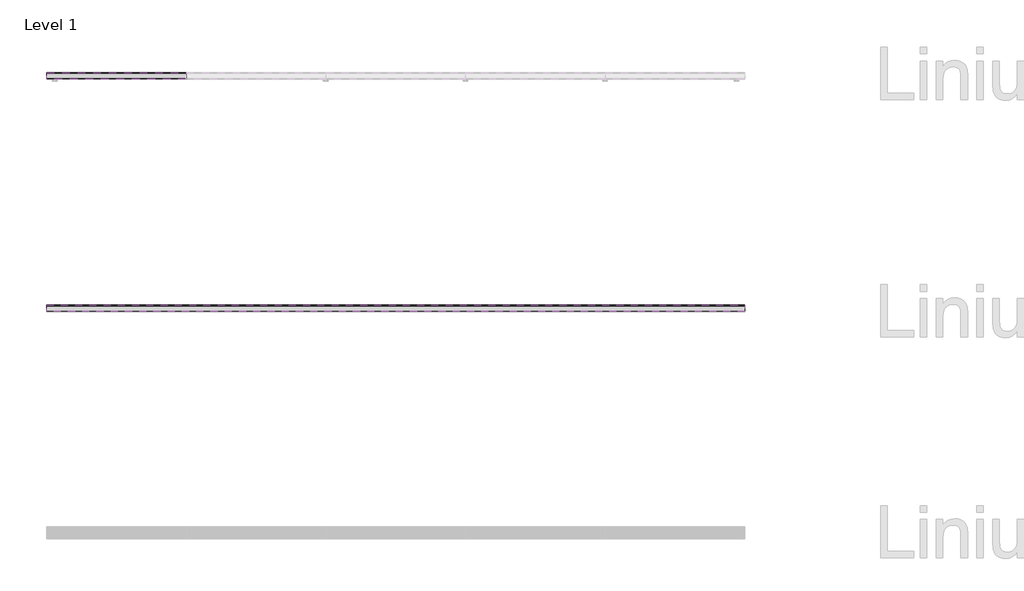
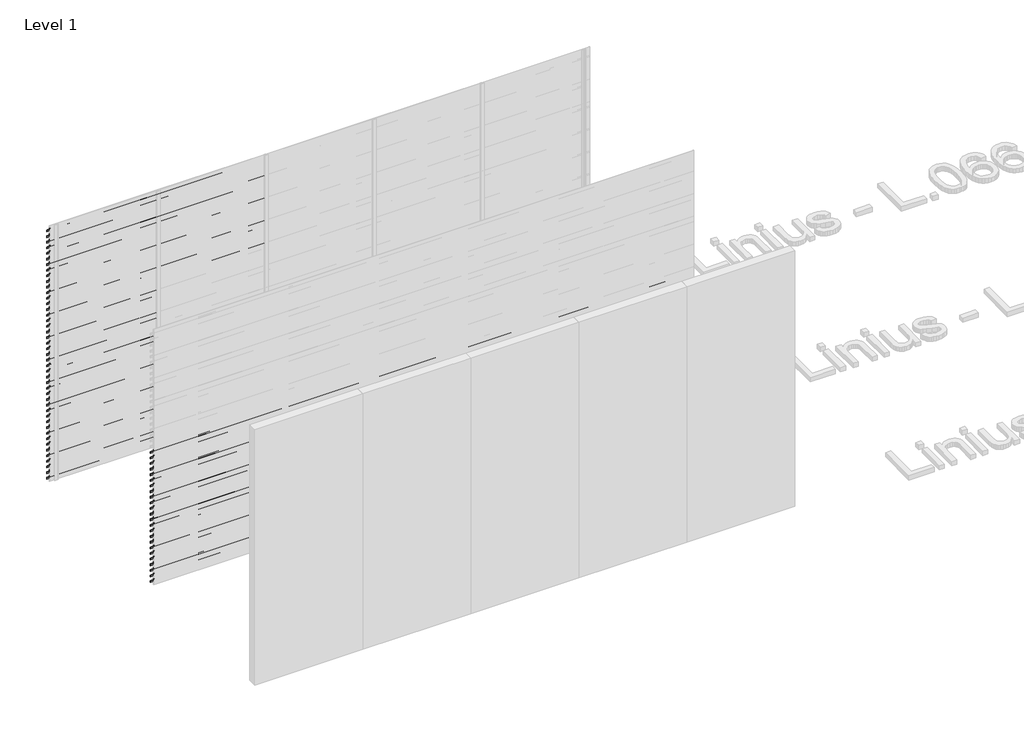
# One storey, part 73 of 540: 85 proxies.
"""IFC4 building model written with IfcOpenShell, lengths in millimetres."""

import ifcopenshell
import ifcopenshell.guid

model = None  # the IFC model being written
_history = None  # IfcOwnerHistory: only IFC2X3 demands one
_inside = {}  # id of a spatial element -> (the spatial element, [elements in it])
_under = {}  # id of a project, library or spatial element -> (it, [spatial elements below it])
_declared = {}  # id of a project -> (the project, [libraries it declares])
_typed = {}  # id of a type object -> (the type object, [elements of that type])
_made_of = {}  # id of a material, layer set ... -> (it, [elements and type objects made of it])


def new_model(schema):
    """Start an empty IFC model of exactly this schema.

    Asked for "IFC4X3", IfcOpenShell would pick the latest addendum, in which some entities
    have other attributes; the version numbers below select the first issue.
    IFC2X3 requires an IfcOwnerHistory on every rooted entity: one is made here for all.
    """
    global model, _history
    if schema == "IFC4X3":
        model = ifcopenshell.file(schema_version=(4, 3, 0, 0))
    else:
        model = ifcopenshell.file(schema=schema)
    _inside.clear()
    _under.clear()
    _declared.clear()
    _typed.clear()
    _made_of.clear()
    _history = None
    if model.schema == "IFC2X3":
        org = make("IfcOrganization", Name="unknown")
        user = make(
            "IfcPersonAndOrganization",
            ThePerson=make("IfcPerson", FamilyName="unknown"),
            TheOrganization=org,
        )
        app = make(
            "IfcApplication",
            ApplicationDeveloper=org,
            Version="unknown",
            ApplicationFullName="unknown",
            ApplicationIdentifier="unknown",
        )
        _history = make(
            "IfcOwnerHistory",
            OwningUser=user,
            OwningApplication=app,
            ChangeAction="ADDED",
            CreationDate=0,
        )
    return model


def make(cls, **values):
    """One entity of the class cls with the attributes given. An attribute that is None is left unset."""
    return model.create_entity(
        cls, **{name: value for name, value in values.items() if value is not None}
    )


def rooted(cls, **values):
    """An entity with a GlobalId (a new one), such as an element, a storey or a relation."""
    return make(cls, GlobalId=ifcopenshell.guid.new(), OwnerHistory=_history, **values)


def si_unit(unit_type, name, prefix=None):
    """IfcSIUnit, for example si_unit("LENGTHUNIT", "METRE", prefix="MILLI")."""
    return make("IfcSIUnit", UnitType=unit_type, Prefix=prefix, Name=name)


def assignment(units):
    """IfcUnitAssignment: the units of a project."""
    return None if units is None else make("IfcUnitAssignment", Units=units)


def point(xyz):
    """IfcCartesianPoint."""
    return None if xyz is None else make("IfcCartesianPoint", Coordinates=xyz)


def direction(xyz):
    """IfcDirection."""
    return None if xyz is None else make("IfcDirection", DirectionRatios=xyz)


def frame(location, z_axis=None, x_axis=None):
    """IfcAxis2Placement3D, a coordinate frame: its origin and axes. An axis left out is left unset."""
    return make(
        "IfcAxis2Placement3D",
        Location=point(location),
        Axis=direction(z_axis),
        RefDirection=direction(x_axis),
    )


def origin():
    """The frame at (0, 0, 0) with its axes left unset."""
    return frame((0.0, 0.0, 0.0))


def place(relative_to, where):
    """IfcLocalPlacement: puts the frame where relative to a parent placement (None: the world)."""
    return make(
        "IfcLocalPlacement", PlacementRelTo=relative_to, RelativePlacement=where
    )


def context(
    kind, dimensions, precision=None, world=None, true_north=None, identifier=None
):
    """IfcGeometricRepresentationContext, for example the 3D "Model" context."""
    return make(
        "IfcGeometricRepresentationContext",
        ContextIdentifier=identifier,
        ContextType=kind,
        CoordinateSpaceDimension=dimensions,
        Precision=precision,
        WorldCoordinateSystem=world,
        TrueNorth=true_north,
    )


def project(units=None, contexts=None):
    """IfcProject with its units and contexts."""
    return rooted(
        "IfcProject",
        Name="project",
        RepresentationContexts=contexts,
        UnitsInContext=assignment(units),
    )


def spatial(cls, under=None, at=None, **own):
    """A site, building, storey or space (cls), placed at a placement, below another one or the project."""
    s = rooted(cls, ObjectPlacement=at, **own)
    if under is not None:
        _under.setdefault(under.id(), (under, []))[1].append(s)
    return s


def polyline(points):
    """IfcPolyline through the points."""
    return make("IfcPolyline", Points=[point(p) for p in points])


def outline(outer, holes=None, kind="AREA"):
    """IfcArbitraryClosedProfileDef: a profile drawn as a closed curve; with holes, ...WithVoids."""
    if holes is None:
        return make("IfcArbitraryClosedProfileDef", ProfileType=kind, OuterCurve=outer)
    return make(
        "IfcArbitraryProfileDefWithVoids",
        ProfileType=kind,
        OuterCurve=outer,
        InnerCurves=holes,
    )


def extrude(swept, where, along, depth):
    """IfcExtrudedAreaSolid: the profile swept, set in the frame where, extruded along a direction by depth."""
    return make(
        "IfcExtrudedAreaSolid",
        SweptArea=swept,
        Position=where,
        ExtrudedDirection=direction(along),
        Depth=depth,
    )


def shape(context_of_items, identifier, shape_type, items):
    """IfcShapeRepresentation: the items that make up one representation, for example the "Body"."""
    return make(
        "IfcShapeRepresentation",
        ContextOfItems=context_of_items,
        RepresentationIdentifier=identifier,
        RepresentationType=shape_type,
        Items=items,
    )


def made_of(thing, what):
    """Note that an element or type object is made of a material, layer set ...; save() writes the relation."""
    if what is not None:
        _made_of.setdefault(what.id(), (what, []))[1].append(thing)
    return thing


def element(
    cls,
    number,
    at=None,
    inside=None,
    cuts=None,
    type_object=None,
    material=None,
    context=None,
    identifier="Body",
    shape_type=None,
    held_by="IfcProductDefinitionShape",
    body=None,
    shapes=None,
    **own,
):
    """One element of the class cls, such as IfcWall. Its Tag is "e" and its number.

    at: its placement. inside: the storey or other place that contains it. cuts: it is an
    opening in that element (IfcRelVoidsElement). A single representation is given by context,
    identifier, shape_type and body (its items); several are given by shapes. held_by: the class
    of the entity that holds the representations. save() writes the other relations.
    """
    e = rooted(cls, Tag="e%d" % number, ObjectPlacement=at, **own)
    if body is not None:
        shapes = [shape(context, identifier, shape_type, body)]
    if shapes is not None:
        e.Representation = make(held_by, Representations=shapes)
    if inside is not None:
        _inside.setdefault(inside.id(), (inside, []))[1].append(e)
    if cuts is not None:
        rooted(
            "IfcRelVoidsElement", RelatingBuildingElement=cuts, RelatedOpeningElement=e
        )
    if type_object is not None:
        _typed.setdefault(type_object.id(), (type_object, []))[1].append(e)
    return made_of(e, material)


def aggregate(whole, parts):
    """IfcRelAggregates: a whole, such as a stair, and the parts it consists of."""
    return rooted("IfcRelAggregates", RelatingObject=whole, RelatedObjects=parts)


def save(model, path):
    """Write the relations noted so far, then the file.

    IfcRelAggregates (storeys below a building ...), IfcRelContainedInSpatialStructure (elements
    in a storey), IfcRelDefinesByType, IfcRelAssociatesMaterial and IfcRelDeclares: one each for
    every whole, place, type object, material and project.
    """
    for whole, parts in _under.values():
        aggregate(whole, parts)
    for where, things in _inside.values():
        rooted(
            "IfcRelContainedInSpatialStructure",
            RelatedElements=things,
            RelatingStructure=where,
        )
    for kind, things in _typed.values():
        rooted("IfcRelDefinesByType", RelatedObjects=things, RelatingType=kind)
    for what, things in _made_of.values():
        rooted("IfcRelAssociatesMaterial", RelatedObjects=things, RelatingMaterial=what)
    for by, libraries in _declared.values():
        rooted("IfcRelDeclares", RelatingContext=by, RelatedDefinitions=libraries)
    model.write(path)


model = new_model("IFC4")

# Units and contexts
model_context = context("Model", 3, world=origin())
ifc_project = project(units=[si_unit("LENGTHUNIT", "METRE", prefix="MILLI")], contexts=[model_context])

# Site, building, storey
site = spatial("IfcSite", under=ifc_project)
building = spatial("IfcBuilding", under=site)
storey = spatial("IfcBuildingStorey", under=building, Name="Level 1", Elevation=0.0)

# Proxies
placement = place(None, origin())
element("IfcBuildingElementProxy", 1, Name="Wall Sweeps", at=placement, inside=storey, context=model_context, shape_type="SweptSolid", body=[
    extrude(outline(polyline([(44081.0540136, 2913.5), (44081.0540136, 2893.5), (44079.8040136, 2894.2216933), (44079.8040136, 2912.7872415), (44026.0540136, 2950.3158044), (44026.0540136, 2970.0), (44027.3040136, 2970.0), (44027.3040136, 2951.0285629), (44081.0540136, 2913.5)])), frame((466.6208097, 0.0, 0.0), z_axis=(1.0, 0.0, 0.0), x_axis=(0.0, 1.0, 0.0)), (0.0, 0.0, 1.0), 1200.0000002),
])
element("IfcBuildingElementProxy", 2, Name="Wall Sweeps", at=placement, inside=storey, context=model_context, shape_type="SweptSolid", body=[
    extrude(outline(polyline([(44081.0540136, 2847.5), (44081.0540136, 2827.5), (44079.8040136, 2828.2216933), (44079.8040136, 2846.7872415), (44026.0540136, 2884.3158044), (44026.0540136, 2904.0), (44027.3040136, 2904.0), (44027.3040136, 2885.0285629), (44081.0540136, 2847.5)])), frame((466.6208097, 0.0, 0.0), z_axis=(1.0, 0.0, 0.0), x_axis=(0.0, 1.0, 0.0)), (0.0, 0.0, 1.0), 1200.0000002),
])
element("IfcBuildingElementProxy", 3, Name="Wall Sweeps", at=placement, inside=storey, context=model_context, shape_type="SweptSolid", body=[
    extrude(outline(polyline([(44081.0540136, 2781.5), (44081.0540136, 2761.5), (44079.8040136, 2762.2216933), (44079.8040136, 2780.7872415), (44026.0540136, 2818.3158044), (44026.0540136, 2838.0), (44027.3040136, 2838.0), (44027.3040136, 2819.0285629), (44081.0540136, 2781.5)])), frame((466.6208097, 0.0, 0.0), z_axis=(1.0, 0.0, 0.0), x_axis=(0.0, 1.0, 0.0)), (0.0, 0.0, 1.0), 1200.0000002),
])
element("IfcBuildingElementProxy", 4, Name="Wall Sweeps", at=placement, inside=storey, context=model_context, shape_type="SweptSolid", body=[
    extrude(outline(polyline([(44081.0540136, 2715.5), (44081.0540136, 2695.5), (44079.8040136, 2696.2216933), (44079.8040136, 2714.7872415), (44026.0540136, 2752.3158044), (44026.0540136, 2772.0), (44027.3040136, 2772.0), (44027.3040136, 2753.0285629), (44081.0540136, 2715.5)])), frame((466.6208097, 0.0, 0.0), z_axis=(1.0, 0.0, 0.0), x_axis=(0.0, 1.0, 0.0)), (0.0, 0.0, 1.0), 1200.0000002),
])
element("IfcBuildingElementProxy", 5, Name="Wall Sweeps", at=placement, inside=storey, context=model_context, shape_type="SweptSolid", body=[
    extrude(outline(polyline([(44081.0540136, 2649.5), (44081.0540136, 2629.5), (44079.8040136, 2630.2216933), (44079.8040136, 2648.7872415), (44026.0540136, 2686.3158044), (44026.0540136, 2706.0), (44027.3040136, 2706.0), (44027.3040136, 2687.0285629), (44081.0540136, 2649.5)])), frame((466.6208097, 0.0, 0.0), z_axis=(1.0, 0.0, 0.0), x_axis=(0.0, 1.0, 0.0)), (0.0, 0.0, 1.0), 1200.0000002),
])
element("IfcBuildingElementProxy", 6, Name="Wall Sweeps", at=placement, inside=storey, context=model_context, shape_type="SweptSolid", body=[
    extrude(outline(polyline([(44081.0540136, 2583.5), (44081.0540136, 2563.5), (44079.8040136, 2564.2216933), (44079.8040136, 2582.7872415), (44026.0540136, 2620.3158044), (44026.0540136, 2640.0), (44027.3040136, 2640.0), (44027.3040136, 2621.0285629), (44081.0540136, 2583.5)])), frame((466.6208097, 0.0, 0.0), z_axis=(1.0, 0.0, 0.0), x_axis=(0.0, 1.0, 0.0)), (0.0, 0.0, 1.0), 1200.0000002),
])
element("IfcBuildingElementProxy", 7, Name="Wall Sweeps", at=placement, inside=storey, context=model_context, shape_type="SweptSolid", body=[
    extrude(outline(polyline([(44081.0540136, 2517.5), (44081.0540136, 2497.5), (44079.8040136, 2498.2216933), (44079.8040136, 2516.7872415), (44026.0540136, 2554.3158044), (44026.0540136, 2574.0), (44027.3040136, 2574.0), (44027.3040136, 2555.0285629), (44081.0540136, 2517.5)])), frame((466.6208097, 0.0, 0.0), z_axis=(1.0, 0.0, 0.0), x_axis=(0.0, 1.0, 0.0)), (0.0, 0.0, 1.0), 1200.0000002),
])
element("IfcBuildingElementProxy", 8, Name="Wall Sweeps", at=placement, inside=storey, context=model_context, shape_type="SweptSolid", body=[
    extrude(outline(polyline([(44081.0540136, 2451.5), (44081.0540136, 2431.5), (44079.8040136, 2432.2216933), (44079.8040136, 2450.7872415), (44026.0540136, 2488.3158044), (44026.0540136, 2508.0), (44027.3040136, 2508.0), (44027.3040136, 2489.0285629), (44081.0540136, 2451.5)])), frame((466.6208097, 0.0, 0.0), z_axis=(1.0, 0.0, 0.0), x_axis=(0.0, 1.0, 0.0)), (0.0, 0.0, 1.0), 1200.0000002),
])
element("IfcBuildingElementProxy", 9, Name="Wall Sweeps", at=placement, inside=storey, context=model_context, shape_type="SweptSolid", body=[
    extrude(outline(polyline([(44081.0540136, 2385.5), (44081.0540136, 2365.5), (44079.8040136, 2366.2216933), (44079.8040136, 2384.7872415), (44026.0540136, 2422.3158044), (44026.0540136, 2442.0), (44027.3040136, 2442.0), (44027.3040136, 2423.0285629), (44081.0540136, 2385.5)])), frame((466.6208097, 0.0, 0.0), z_axis=(1.0, 0.0, 0.0), x_axis=(0.0, 1.0, 0.0)), (0.0, 0.0, 1.0), 1200.0000002),
])
element("IfcBuildingElementProxy", 10, Name="Wall Sweeps", at=placement, inside=storey, context=model_context, shape_type="SweptSolid", body=[
    extrude(outline(polyline([(44081.0540136, 2319.5), (44081.0540136, 2299.5), (44079.8040136, 2300.2216933), (44079.8040136, 2318.7872415), (44026.0540136, 2356.3158044), (44026.0540136, 2376.0), (44027.3040136, 2376.0), (44027.3040136, 2357.0285629), (44081.0540136, 2319.5)])), frame((466.6208097, 0.0, 0.0), z_axis=(1.0, 0.0, 0.0), x_axis=(0.0, 1.0, 0.0)), (0.0, 0.0, 1.0), 1200.0000002),
])
element("IfcBuildingElementProxy", 11, Name="Wall Sweeps", at=placement, inside=storey, context=model_context, shape_type="SweptSolid", body=[
    extrude(outline(polyline([(44081.0540136, 2253.5), (44081.0540136, 2233.5), (44079.8040136, 2234.2216933), (44079.8040136, 2252.7872415), (44026.0540136, 2290.3158044), (44026.0540136, 2310.0), (44027.3040136, 2310.0), (44027.3040136, 2291.0285629), (44081.0540136, 2253.5)])), frame((466.6208097, 0.0, 0.0), z_axis=(1.0, 0.0, 0.0), x_axis=(0.0, 1.0, 0.0)), (0.0, 0.0, 1.0), 1200.0000002),
])
element("IfcBuildingElementProxy", 12, Name="Wall Sweeps", at=placement, inside=storey, context=model_context, shape_type="SweptSolid", body=[
    extrude(outline(polyline([(44081.0540136, 2187.5), (44081.0540136, 2167.5), (44079.8040136, 2168.2216933), (44079.8040136, 2186.7872415), (44026.0540136, 2224.3158044), (44026.0540136, 2244.0), (44027.3040136, 2244.0), (44027.3040136, 2225.0285629), (44081.0540136, 2187.5)])), frame((466.6208097, 0.0, 0.0), z_axis=(1.0, 0.0, 0.0), x_axis=(0.0, 1.0, 0.0)), (0.0, 0.0, 1.0), 1200.0000002),
])
element("IfcBuildingElementProxy", 13, Name="Wall Sweeps", at=placement, inside=storey, context=model_context, shape_type="SweptSolid", body=[
    extrude(outline(polyline([(44081.0540136, 2121.5), (44081.0540136, 2101.5), (44079.8040136, 2102.2216933), (44079.8040136, 2120.7872415), (44026.0540136, 2158.3158044), (44026.0540136, 2178.0), (44027.3040136, 2178.0), (44027.3040136, 2159.0285629), (44081.0540136, 2121.5)])), frame((466.6208097, 0.0, 0.0), z_axis=(1.0, 0.0, 0.0), x_axis=(0.0, 1.0, 0.0)), (0.0, 0.0, 1.0), 1200.0000002),
])
element("IfcBuildingElementProxy", 14, Name="Wall Sweeps", at=placement, inside=storey, context=model_context, shape_type="SweptSolid", body=[
    extrude(outline(polyline([(44081.0540136, 2055.5), (44081.0540136, 2035.5), (44079.8040136, 2036.2216933), (44079.8040136, 2054.7872415), (44026.0540136, 2092.3158044), (44026.0540136, 2112.0), (44027.3040136, 2112.0), (44027.3040136, 2093.0285629), (44081.0540136, 2055.5)])), frame((466.6208097, 0.0, 0.0), z_axis=(1.0, 0.0, 0.0), x_axis=(0.0, 1.0, 0.0)), (0.0, 0.0, 1.0), 1200.0000002),
])
element("IfcBuildingElementProxy", 15, Name="Wall Sweeps", at=placement, inside=storey, context=model_context, shape_type="SweptSolid", body=[
    extrude(outline(polyline([(44081.0540136, 1989.5), (44081.0540136, 1969.5), (44079.8040136, 1970.2216933), (44079.8040136, 1988.7872415), (44026.0540136, 2026.3158044), (44026.0540136, 2046.0), (44027.3040136, 2046.0), (44027.3040136, 2027.0285629), (44081.0540136, 1989.5)])), frame((466.6208097, 0.0, 0.0), z_axis=(1.0, 0.0, 0.0), x_axis=(0.0, 1.0, 0.0)), (0.0, 0.0, 1.0), 1200.0000002),
])
element("IfcBuildingElementProxy", 16, Name="Wall Sweeps", at=placement, inside=storey, context=model_context, shape_type="SweptSolid", body=[
    extrude(outline(polyline([(44081.0540136, 1923.5), (44081.0540136, 1903.5), (44079.8040136, 1904.2216933), (44079.8040136, 1922.7872415), (44026.0540136, 1960.3158044), (44026.0540136, 1980.0), (44027.3040136, 1980.0), (44027.3040136, 1961.0285629), (44081.0540136, 1923.5)])), frame((466.6208097, 0.0, 0.0), z_axis=(1.0, 0.0, 0.0), x_axis=(0.0, 1.0, 0.0)), (0.0, 0.0, 1.0), 1200.0000002),
])
element("IfcBuildingElementProxy", 17, Name="Wall Sweeps", at=placement, inside=storey, context=model_context, shape_type="SweptSolid", body=[
    extrude(outline(polyline([(44081.0540136, 1857.5), (44081.0540136, 1837.5), (44079.8040136, 1838.2216933), (44079.8040136, 1856.7872415), (44026.0540136, 1894.3158044), (44026.0540136, 1914.0), (44027.3040136, 1914.0), (44027.3040136, 1895.0285629), (44081.0540136, 1857.5)])), frame((466.6208097, 0.0, 0.0), z_axis=(1.0, 0.0, 0.0), x_axis=(0.0, 1.0, 0.0)), (0.0, 0.0, 1.0), 1200.0000002),
])
element("IfcBuildingElementProxy", 18, Name="Wall Sweeps", at=placement, inside=storey, context=model_context, shape_type="SweptSolid", body=[
    extrude(outline(polyline([(44081.0540136, 1791.5), (44081.0540136, 1771.5), (44079.8040136, 1772.2216933), (44079.8040136, 1790.7872415), (44026.0540136, 1828.3158044), (44026.0540136, 1848.0), (44027.3040136, 1848.0), (44027.3040136, 1829.0285629), (44081.0540136, 1791.5)])), frame((466.6208097, 0.0, 0.0), z_axis=(1.0, 0.0, 0.0), x_axis=(0.0, 1.0, 0.0)), (0.0, 0.0, 1.0), 1200.0000002),
])
element("IfcBuildingElementProxy", 19, Name="Wall Sweeps", at=placement, inside=storey, context=model_context, shape_type="SweptSolid", body=[
    extrude(outline(polyline([(44081.0540136, 1725.5), (44081.0540136, 1705.5), (44079.8040136, 1706.2216933), (44079.8040136, 1724.7872415), (44026.0540136, 1762.3158044), (44026.0540136, 1782.0), (44027.3040136, 1782.0), (44027.3040136, 1763.0285629), (44081.0540136, 1725.5)])), frame((466.6208097, 0.0, 0.0), z_axis=(1.0, 0.0, 0.0), x_axis=(0.0, 1.0, 0.0)), (0.0, 0.0, 1.0), 1200.0000002),
])
element("IfcBuildingElementProxy", 20, Name="Wall Sweeps", at=placement, inside=storey, context=model_context, shape_type="SweptSolid", body=[
    extrude(outline(polyline([(44081.0540136, 1659.5), (44081.0540136, 1639.5), (44079.8040136, 1640.2216933), (44079.8040136, 1658.7872415), (44026.0540136, 1696.3158044), (44026.0540136, 1716.0), (44027.3040136, 1716.0), (44027.3040136, 1697.0285629), (44081.0540136, 1659.5)])), frame((466.6208097, 0.0, 0.0), z_axis=(1.0, 0.0, 0.0), x_axis=(0.0, 1.0, 0.0)), (0.0, 0.0, 1.0), 1200.0000002),
])
element("IfcBuildingElementProxy", 21, Name="Wall Sweeps", at=placement, inside=storey, context=model_context, shape_type="SweptSolid", body=[
    extrude(outline(polyline([(44081.0540136, 1593.5), (44081.0540136, 1573.5), (44079.8040136, 1574.2216933), (44079.8040136, 1592.7872415), (44026.0540136, 1630.3158044), (44026.0540136, 1650.0), (44027.3040136, 1650.0), (44027.3040136, 1631.0285629), (44081.0540136, 1593.5)])), frame((466.6208097, 0.0, 0.0), z_axis=(1.0, 0.0, 0.0), x_axis=(0.0, 1.0, 0.0)), (0.0, 0.0, 1.0), 1200.0000002),
])
element("IfcBuildingElementProxy", 22, Name="Wall Sweeps", at=placement, inside=storey, context=model_context, shape_type="SweptSolid", body=[
    extrude(outline(polyline([(44081.0540136, 1527.5), (44081.0540136, 1507.5), (44079.8040136, 1508.2216933), (44079.8040136, 1526.7872415), (44026.0540136, 1564.3158044), (44026.0540136, 1584.0), (44027.3040136, 1584.0), (44027.3040136, 1565.0285629), (44081.0540136, 1527.5)])), frame((466.6208097, 0.0, 0.0), z_axis=(1.0, 0.0, 0.0), x_axis=(0.0, 1.0, 0.0)), (0.0, 0.0, 1.0), 1200.0000002),
])
element("IfcBuildingElementProxy", 23, Name="Wall Sweeps", at=placement, inside=storey, context=model_context, shape_type="SweptSolid", body=[
    extrude(outline(polyline([(44081.0540136, 1461.5), (44081.0540136, 1441.5), (44079.8040136, 1442.2216933), (44079.8040136, 1460.7872415), (44026.0540136, 1498.3158044), (44026.0540136, 1518.0), (44027.3040136, 1518.0), (44027.3040136, 1499.0285629), (44081.0540136, 1461.5)])), frame((466.6208097, 0.0, 0.0), z_axis=(1.0, 0.0, 0.0), x_axis=(0.0, 1.0, 0.0)), (0.0, 0.0, 1.0), 1200.0000002),
])
element("IfcBuildingElementProxy", 24, Name="Wall Sweeps", at=placement, inside=storey, context=model_context, shape_type="SweptSolid", body=[
    extrude(outline(polyline([(44081.0540136, 1395.5), (44081.0540136, 1375.5), (44079.8040136, 1376.2216933), (44079.8040136, 1394.7872415), (44026.0540136, 1432.3158044), (44026.0540136, 1452.0), (44027.3040136, 1452.0), (44027.3040136, 1433.0285629), (44081.0540136, 1395.5)])), frame((466.6208097, 0.0, 0.0), z_axis=(1.0, 0.0, 0.0), x_axis=(0.0, 1.0, 0.0)), (0.0, 0.0, 1.0), 1200.0000002),
])
element("IfcBuildingElementProxy", 25, Name="Wall Sweeps", at=placement, inside=storey, context=model_context, shape_type="SweptSolid", body=[
    extrude(outline(polyline([(44081.0540136, 1329.5), (44081.0540136, 1309.5), (44079.8040136, 1310.2216933), (44079.8040136, 1328.7872415), (44026.0540136, 1366.3158044), (44026.0540136, 1386.0), (44027.3040136, 1386.0), (44027.3040136, 1367.0285629), (44081.0540136, 1329.5)])), frame((466.6208097, 0.0, 0.0), z_axis=(1.0, 0.0, 0.0), x_axis=(0.0, 1.0, 0.0)), (0.0, 0.0, 1.0), 1200.0000002),
])
element("IfcBuildingElementProxy", 26, Name="Wall Sweeps", at=placement, inside=storey, context=model_context, shape_type="SweptSolid", body=[
    extrude(outline(polyline([(44081.0540136, 1263.5), (44081.0540136, 1243.5), (44079.8040136, 1244.2216933), (44079.8040136, 1262.7872415), (44026.0540136, 1300.3158044), (44026.0540136, 1320.0), (44027.3040136, 1320.0), (44027.3040136, 1301.0285629), (44081.0540136, 1263.5)])), frame((466.6208097, 0.0, 0.0), z_axis=(1.0, 0.0, 0.0), x_axis=(0.0, 1.0, 0.0)), (0.0, 0.0, 1.0), 1200.0000002),
])
element("IfcBuildingElementProxy", 27, Name="Wall Sweeps", at=placement, inside=storey, context=model_context, shape_type="SweptSolid", body=[
    extrude(outline(polyline([(44081.0540136, 1197.5), (44081.0540136, 1177.5), (44079.8040136, 1178.2216933), (44079.8040136, 1196.7872415), (44026.0540136, 1234.3158044), (44026.0540136, 1254.0), (44027.3040136, 1254.0), (44027.3040136, 1235.0285629), (44081.0540136, 1197.5)])), frame((466.6208097, 0.0, 0.0), z_axis=(1.0, 0.0, 0.0), x_axis=(0.0, 1.0, 0.0)), (0.0, 0.0, 1.0), 1200.0000002),
])
element("IfcBuildingElementProxy", 28, Name="Wall Sweeps", at=placement, inside=storey, context=model_context, shape_type="SweptSolid", body=[
    extrude(outline(polyline([(44081.0540136, 1131.5), (44081.0540136, 1111.5), (44079.8040136, 1112.2216933), (44079.8040136, 1130.7872415), (44026.0540136, 1168.3158044), (44026.0540136, 1188.0), (44027.3040136, 1188.0), (44027.3040136, 1169.0285629), (44081.0540136, 1131.5)])), frame((466.6208097, 0.0, 0.0), z_axis=(1.0, 0.0, 0.0), x_axis=(0.0, 1.0, 0.0)), (0.0, 0.0, 1.0), 1200.0000002),
])
element("IfcBuildingElementProxy", 29, Name="Wall Sweeps", at=placement, inside=storey, context=model_context, shape_type="SweptSolid", body=[
    extrude(outline(polyline([(44081.0540136, 1065.5), (44081.0540136, 1045.5), (44079.8040136, 1046.2216933), (44079.8040136, 1064.7872415), (44026.0540136, 1102.3158044), (44026.0540136, 1122.0), (44027.3040136, 1122.0), (44027.3040136, 1103.0285629), (44081.0540136, 1065.5)])), frame((466.6208097, 0.0, 0.0), z_axis=(1.0, 0.0, 0.0), x_axis=(0.0, 1.0, 0.0)), (0.0, 0.0, 1.0), 1200.0000002),
])
element("IfcBuildingElementProxy", 30, Name="Wall Sweeps", at=placement, inside=storey, context=model_context, shape_type="SweptSolid", body=[
    extrude(outline(polyline([(44081.0540136, 999.5), (44081.0540136, 979.5), (44079.8040136, 980.2216933), (44079.8040136, 998.7872415), (44026.0540136, 1036.3158044), (44026.0540136, 1056.0), (44027.3040136, 1056.0), (44027.3040136, 1037.0285629), (44081.0540136, 999.5)])), frame((466.6208097, 0.0, 0.0), z_axis=(1.0, 0.0, 0.0), x_axis=(0.0, 1.0, 0.0)), (0.0, 0.0, 1.0), 1200.0000002),
])
element("IfcBuildingElementProxy", 31, Name="Wall Sweeps", at=placement, inside=storey, context=model_context, shape_type="SweptSolid", body=[
    extrude(outline(polyline([(44081.0540136, 933.5), (44081.0540136, 913.5), (44079.8040136, 914.2216933), (44079.8040136, 932.7872415), (44026.0540136, 970.3158044), (44026.0540136, 990.0), (44027.3040136, 990.0), (44027.3040136, 971.0285629), (44081.0540136, 933.5)])), frame((466.6208097, 0.0, 0.0), z_axis=(1.0, 0.0, 0.0), x_axis=(0.0, 1.0, 0.0)), (0.0, 0.0, 1.0), 1200.0000002),
])
element("IfcBuildingElementProxy", 32, Name="Wall Sweeps", at=placement, inside=storey, context=model_context, shape_type="SweptSolid", body=[
    extrude(outline(polyline([(44081.0540136, 867.5), (44081.0540136, 847.5), (44079.8040136, 848.2216933), (44079.8040136, 866.7872415), (44026.0540136, 904.3158044), (44026.0540136, 924.0), (44027.3040136, 924.0), (44027.3040136, 905.0285629), (44081.0540136, 867.5)])), frame((466.6208097, 0.0, 0.0), z_axis=(1.0, 0.0, 0.0), x_axis=(0.0, 1.0, 0.0)), (0.0, 0.0, 1.0), 1200.0000002),
])
element("IfcBuildingElementProxy", 33, Name="Wall Sweeps", at=placement, inside=storey, context=model_context, shape_type="SweptSolid", body=[
    extrude(outline(polyline([(44081.0540136, 801.5), (44081.0540136, 781.5), (44079.8040136, 782.2216933), (44079.8040136, 800.7872415), (44026.0540136, 838.3158044), (44026.0540136, 858.0), (44027.3040136, 858.0), (44027.3040136, 839.0285629), (44081.0540136, 801.5)])), frame((466.6208097, 0.0, 0.0), z_axis=(1.0, 0.0, 0.0), x_axis=(0.0, 1.0, 0.0)), (0.0, 0.0, 1.0), 1200.0000002),
])
element("IfcBuildingElementProxy", 34, Name="Wall Sweeps", at=placement, inside=storey, context=model_context, shape_type="SweptSolid", body=[
    extrude(outline(polyline([(44081.0540136, 735.5), (44081.0540136, 715.5), (44079.8040136, 716.2216933), (44079.8040136, 734.7872415), (44026.0540136, 772.3158044), (44026.0540136, 792.0), (44027.3040136, 792.0), (44027.3040136, 773.0285629), (44081.0540136, 735.5)])), frame((466.6208097, 0.0, 0.0), z_axis=(1.0, 0.0, 0.0), x_axis=(0.0, 1.0, 0.0)), (0.0, 0.0, 1.0), 1200.0000002),
])
element("IfcBuildingElementProxy", 35, Name="Wall Sweeps", at=placement, inside=storey, context=model_context, shape_type="SweptSolid", body=[
    extrude(outline(polyline([(44081.0540136, 669.5), (44081.0540136, 649.5), (44079.8040136, 650.2216933), (44079.8040136, 668.7872415), (44026.0540136, 706.3158044), (44026.0540136, 726.0), (44027.3040136, 726.0), (44027.3040136, 707.0285629), (44081.0540136, 669.5)])), frame((466.6208097, 0.0, 0.0), z_axis=(1.0, 0.0, 0.0), x_axis=(0.0, 1.0, 0.0)), (0.0, 0.0, 1.0), 1200.0000002),
])
element("IfcBuildingElementProxy", 36, Name="Wall Sweeps", at=placement, inside=storey, context=model_context, shape_type="SweptSolid", body=[
    extrude(outline(polyline([(44081.0540136, 603.5), (44081.0540136, 583.5), (44079.8040136, 584.2216933), (44079.8040136, 602.7872415), (44026.0540136, 640.3158044), (44026.0540136, 660.0), (44027.3040136, 660.0), (44027.3040136, 641.0285629), (44081.0540136, 603.5)])), frame((466.6208097, 0.0, 0.0), z_axis=(1.0, 0.0, 0.0), x_axis=(0.0, 1.0, 0.0)), (0.0, 0.0, 1.0), 1200.0000002),
])
element("IfcBuildingElementProxy", 37, Name="Wall Sweeps", at=placement, inside=storey, context=model_context, shape_type="SweptSolid", body=[
    extrude(outline(polyline([(44081.0540136, 537.5), (44081.0540136, 517.5), (44079.8040136, 518.2216933), (44079.8040136, 536.7872415), (44026.0540136, 574.3158044), (44026.0540136, 594.0), (44027.3040136, 594.0), (44027.3040136, 575.0285629), (44081.0540136, 537.5)])), frame((466.6208097, 0.0, 0.0), z_axis=(1.0, 0.0, 0.0), x_axis=(0.0, 1.0, 0.0)), (0.0, 0.0, 1.0), 1200.0000002),
])
element("IfcBuildingElementProxy", 38, Name="Wall Sweeps", at=placement, inside=storey, context=model_context, shape_type="SweptSolid", body=[
    extrude(outline(polyline([(44081.0540136, 471.5), (44081.0540136, 451.5), (44079.8040136, 452.2216933), (44079.8040136, 470.7872415), (44026.0540136, 508.3158044), (44026.0540136, 528.0), (44027.3040136, 528.0), (44027.3040136, 509.0285629), (44081.0540136, 471.5)])), frame((466.6208097, 0.0, 0.0), z_axis=(1.0, 0.0, 0.0), x_axis=(0.0, 1.0, 0.0)), (0.0, 0.0, 1.0), 1200.0000002),
])
element("IfcBuildingElementProxy", 39, Name="Wall Sweeps", at=placement, inside=storey, context=model_context, shape_type="SweptSolid", body=[
    extrude(outline(polyline([(44081.0540136, 405.5), (44081.0540136, 385.5), (44079.8040136, 386.2216933), (44079.8040136, 404.7872415), (44026.0540136, 442.3158044), (44026.0540136, 462.0), (44027.3040136, 462.0), (44027.3040136, 443.0285629), (44081.0540136, 405.5)])), frame((466.6208097, 0.0, 0.0), z_axis=(1.0, 0.0, 0.0), x_axis=(0.0, 1.0, 0.0)), (0.0, 0.0, 1.0), 1200.0000002),
])
element("IfcBuildingElementProxy", 40, Name="Wall Sweeps", at=placement, inside=storey, context=model_context, shape_type="SweptSolid", body=[
    extrude(outline(polyline([(44081.0540136, 339.5), (44081.0540136, 319.5), (44079.8040136, 320.2216933), (44079.8040136, 338.7872415), (44026.0540136, 376.3158044), (44026.0540136, 396.0), (44027.3040136, 396.0), (44027.3040136, 377.0285629), (44081.0540136, 339.5)])), frame((466.6208097, 0.0, 0.0), z_axis=(1.0, 0.0, 0.0), x_axis=(0.0, 1.0, 0.0)), (0.0, 0.0, 1.0), 1200.0000002),
])
element("IfcBuildingElementProxy", 41, Name="Wall Sweeps", at=placement, inside=storey, context=model_context, shape_type="SweptSolid", body=[
    extrude(outline(polyline([(44081.0540136, 273.5), (44081.0540136, 253.5), (44079.8040136, 254.2216933), (44079.8040136, 272.7872415), (44026.0540136, 310.3158044), (44026.0540136, 330.0), (44027.3040136, 330.0), (44027.3040136, 311.0285629), (44081.0540136, 273.5)])), frame((466.6208097, 0.0, 0.0), z_axis=(1.0, 0.0, 0.0), x_axis=(0.0, 1.0, 0.0)), (0.0, 0.0, 1.0), 1200.0000002),
])
element("IfcBuildingElementProxy", 42, Name="Wall Sweeps", at=placement, inside=storey, context=model_context, shape_type="SweptSolid", body=[
    extrude(outline(polyline([(44081.0540136, 207.5), (44081.0540136, 187.5), (44079.8040136, 188.2216933), (44079.8040136, 206.7872415), (44026.0540136, 244.3158044), (44026.0540136, 264.0), (44027.3040136, 264.0), (44027.3040136, 245.0285629), (44081.0540136, 207.5)])), frame((466.6208097, 0.0, 0.0), z_axis=(1.0, 0.0, 0.0), x_axis=(0.0, 1.0, 0.0)), (0.0, 0.0, 1.0), 1200.0000002),
])
element("IfcBuildingElementProxy", 43, Name="Wall Sweeps", at=placement, inside=storey, context=model_context, shape_type="SweptSolid", body=[
    extrude(outline(polyline([(44081.0540136, 141.5), (44081.0540136, 121.5), (44079.8040136, 122.2216933), (44079.8040136, 140.7872415), (44026.0540136, 178.3158044), (44026.0540136, 198.0), (44027.3040136, 198.0), (44027.3040136, 179.0285629), (44081.0540136, 141.5)])), frame((466.6208097, 0.0, 0.0), z_axis=(1.0, 0.0, 0.0), x_axis=(0.0, 1.0, 0.0)), (0.0, 0.0, 1.0), 1200.0000002),
])
element("IfcBuildingElementProxy", 44, Name="Wall Sweeps", at=placement, inside=storey, context=model_context, shape_type="SweptSolid", body=[
    extrude(outline(polyline([(44081.0540136, 75.5), (44081.0540136, 55.5), (44079.8040136, 56.2216933), (44079.8040136, 74.7872415), (44026.0540136, 112.3158044), (44026.0540136, 132.0), (44027.3040136, 132.0), (44027.3040136, 113.0285629), (44081.0540136, 75.5)])), frame((466.6208097, 0.0, 0.0), z_axis=(1.0, 0.0, 0.0), x_axis=(0.0, 1.0, 0.0)), (0.0, 0.0, 1.0), 1200.0000002),
])
element("IfcBuildingElementProxy", 45, Name="Wall Sweeps", at=placement, inside=storey, context=model_context, shape_type="SweptSolid", body=[
    extrude(outline(polyline([(44081.0540136, 9.5), (44081.0540136, -10.5), (44079.8040136, -9.7783067), (44079.8040136, 8.7872415), (44026.0540136, 46.3158044), (44026.0540136, 66.0), (44027.3040136, 66.0), (44027.3040136, 47.0285629), (44081.0540136, 9.5)])), frame((466.6208097, 0.0, 0.0), z_axis=(1.0, 0.0, 0.0), x_axis=(0.0, 1.0, 0.0)), (0.0, 0.0, 1.0), 1200.0000002),
])
element("IfcBuildingElementProxy", 46, Name="Wall Sweeps", at=placement, inside=storey, context=model_context, shape_type="SweptSolid", body=[
    extrude(outline(polyline([(44081.0540136, 2913.5), (44081.0540136, 2893.5), (44079.8040136, 2894.2216933), (44079.8040136, 2912.7872415), (44026.0540136, 2950.3158044), (44026.0540136, 2970.0), (44027.3040136, 2970.0), (44027.3040136, 2951.0285629), (44081.0540136, 2913.5)])), frame((1666.6208099, 0.0, 0.0), z_axis=(1.0, 0.0, 0.0), x_axis=(0.0, 1.0, 0.0)), (0.0, 0.0, 1.0), 1199.9999999),
])
element("IfcBuildingElementProxy", 47, Name="Wall Sweeps", at=placement, inside=storey, context=model_context, shape_type="SweptSolid", body=[
    extrude(outline(polyline([(44081.0540136, 2847.5), (44081.0540136, 2827.5), (44079.8040136, 2828.2216933), (44079.8040136, 2846.7872415), (44026.0540136, 2884.3158044), (44026.0540136, 2904.0), (44027.3040136, 2904.0), (44027.3040136, 2885.0285629), (44081.0540136, 2847.5)])), frame((1666.6208099, 0.0, 0.0), z_axis=(1.0, 0.0, 0.0), x_axis=(0.0, 1.0, 0.0)), (0.0, 0.0, 1.0), 1199.9999999),
])
element("IfcBuildingElementProxy", 48, Name="Wall Sweeps", at=placement, inside=storey, context=model_context, shape_type="SweptSolid", body=[
    extrude(outline(polyline([(44081.0540136, 2781.5), (44081.0540136, 2761.5), (44079.8040136, 2762.2216933), (44079.8040136, 2780.7872415), (44026.0540136, 2818.3158044), (44026.0540136, 2838.0), (44027.3040136, 2838.0), (44027.3040136, 2819.0285629), (44081.0540136, 2781.5)])), frame((1666.6208099, 0.0, 0.0), z_axis=(1.0, 0.0, 0.0), x_axis=(0.0, 1.0, 0.0)), (0.0, 0.0, 1.0), 1199.9999999),
])
element("IfcBuildingElementProxy", 49, Name="Wall Sweeps", at=placement, inside=storey, context=model_context, shape_type="SweptSolid", body=[
    extrude(outline(polyline([(44081.0540136, 2715.5), (44081.0540136, 2695.5), (44079.8040136, 2696.2216933), (44079.8040136, 2714.7872415), (44026.0540136, 2752.3158044), (44026.0540136, 2772.0), (44027.3040136, 2772.0), (44027.3040136, 2753.0285629), (44081.0540136, 2715.5)])), frame((1666.6208099, 0.0, 0.0), z_axis=(1.0, 0.0, 0.0), x_axis=(0.0, 1.0, 0.0)), (0.0, 0.0, 1.0), 1199.9999999),
])
element("IfcBuildingElementProxy", 50, Name="Wall Sweeps", at=placement, inside=storey, context=model_context, shape_type="SweptSolid", body=[
    extrude(outline(polyline([(44081.0540136, 2649.5), (44081.0540136, 2629.5), (44079.8040136, 2630.2216933), (44079.8040136, 2648.7872415), (44026.0540136, 2686.3158044), (44026.0540136, 2706.0), (44027.3040136, 2706.0), (44027.3040136, 2687.0285629), (44081.0540136, 2649.5)])), frame((1666.6208099, 0.0, 0.0), z_axis=(1.0, 0.0, 0.0), x_axis=(0.0, 1.0, 0.0)), (0.0, 0.0, 1.0), 1199.9999999),
])
element("IfcBuildingElementProxy", 51, Name="Wall Sweeps", at=placement, inside=storey, context=model_context, shape_type="SweptSolid", body=[
    extrude(outline(polyline([(44081.0540136, 2583.5), (44081.0540136, 2563.5), (44079.8040136, 2564.2216933), (44079.8040136, 2582.7872415), (44026.0540136, 2620.3158044), (44026.0540136, 2640.0), (44027.3040136, 2640.0), (44027.3040136, 2621.0285629), (44081.0540136, 2583.5)])), frame((1666.6208099, 0.0, 0.0), z_axis=(1.0, 0.0, 0.0), x_axis=(0.0, 1.0, 0.0)), (0.0, 0.0, 1.0), 1199.9999999),
])
element("IfcBuildingElementProxy", 52, Name="Wall Sweeps", at=placement, inside=storey, context=model_context, shape_type="SweptSolid", body=[
    extrude(outline(polyline([(44081.0540136, 2517.5), (44081.0540136, 2497.5), (44079.8040136, 2498.2216933), (44079.8040136, 2516.7872415), (44026.0540136, 2554.3158044), (44026.0540136, 2574.0), (44027.3040136, 2574.0), (44027.3040136, 2555.0285629), (44081.0540136, 2517.5)])), frame((1666.6208099, 0.0, 0.0), z_axis=(1.0, 0.0, 0.0), x_axis=(0.0, 1.0, 0.0)), (0.0, 0.0, 1.0), 1199.9999999),
])
element("IfcBuildingElementProxy", 53, Name="Wall Sweeps", at=placement, inside=storey, context=model_context, shape_type="SweptSolid", body=[
    extrude(outline(polyline([(44081.0540136, 2451.5), (44081.0540136, 2431.5), (44079.8040136, 2432.2216933), (44079.8040136, 2450.7872415), (44026.0540136, 2488.3158044), (44026.0540136, 2508.0), (44027.3040136, 2508.0), (44027.3040136, 2489.0285629), (44081.0540136, 2451.5)])), frame((1666.6208099, 0.0, 0.0), z_axis=(1.0, 0.0, 0.0), x_axis=(0.0, 1.0, 0.0)), (0.0, 0.0, 1.0), 1199.9999999),
])
element("IfcBuildingElementProxy", 54, Name="Wall Sweeps", at=placement, inside=storey, context=model_context, shape_type="SweptSolid", body=[
    extrude(outline(polyline([(44081.0540136, 2385.5), (44081.0540136, 2365.5), (44079.8040136, 2366.2216933), (44079.8040136, 2384.7872415), (44026.0540136, 2422.3158044), (44026.0540136, 2442.0), (44027.3040136, 2442.0), (44027.3040136, 2423.0285629), (44081.0540136, 2385.5)])), frame((1666.6208099, 0.0, 0.0), z_axis=(1.0, 0.0, 0.0), x_axis=(0.0, 1.0, 0.0)), (0.0, 0.0, 1.0), 1199.9999999),
])
element("IfcBuildingElementProxy", 55, Name="Wall Sweeps", at=placement, inside=storey, context=model_context, shape_type="SweptSolid", body=[
    extrude(outline(polyline([(44081.0540136, 2319.5), (44081.0540136, 2299.5), (44079.8040136, 2300.2216933), (44079.8040136, 2318.7872415), (44026.0540136, 2356.3158044), (44026.0540136, 2376.0), (44027.3040136, 2376.0), (44027.3040136, 2357.0285629), (44081.0540136, 2319.5)])), frame((1666.6208099, 0.0, 0.0), z_axis=(1.0, 0.0, 0.0), x_axis=(0.0, 1.0, 0.0)), (0.0, 0.0, 1.0), 1199.9999999),
])
element("IfcBuildingElementProxy", 56, Name="Wall Sweeps", at=placement, inside=storey, context=model_context, shape_type="SweptSolid", body=[
    extrude(outline(polyline([(44081.0540136, 2253.5), (44081.0540136, 2233.5), (44079.8040136, 2234.2216933), (44079.8040136, 2252.7872415), (44026.0540136, 2290.3158044), (44026.0540136, 2310.0), (44027.3040136, 2310.0), (44027.3040136, 2291.0285629), (44081.0540136, 2253.5)])), frame((1666.6208099, 0.0, 0.0), z_axis=(1.0, 0.0, 0.0), x_axis=(0.0, 1.0, 0.0)), (0.0, 0.0, 1.0), 1199.9999999),
])
element("IfcBuildingElementProxy", 57, Name="Wall Sweeps", at=placement, inside=storey, context=model_context, shape_type="SweptSolid", body=[
    extrude(outline(polyline([(44081.0540136, 2187.5), (44081.0540136, 2167.5), (44079.8040136, 2168.2216933), (44079.8040136, 2186.7872415), (44026.0540136, 2224.3158044), (44026.0540136, 2244.0), (44027.3040136, 2244.0), (44027.3040136, 2225.0285629), (44081.0540136, 2187.5)])), frame((1666.6208099, 0.0, 0.0), z_axis=(1.0, 0.0, 0.0), x_axis=(0.0, 1.0, 0.0)), (0.0, 0.0, 1.0), 1199.9999999),
])
element("IfcBuildingElementProxy", 58, Name="Wall Sweeps", at=placement, inside=storey, context=model_context, shape_type="SweptSolid", body=[
    extrude(outline(polyline([(44081.0540136, 2121.5), (44081.0540136, 2101.5), (44079.8040136, 2102.2216933), (44079.8040136, 2120.7872415), (44026.0540136, 2158.3158044), (44026.0540136, 2178.0), (44027.3040136, 2178.0), (44027.3040136, 2159.0285629), (44081.0540136, 2121.5)])), frame((1666.6208099, 0.0, 0.0), z_axis=(1.0, 0.0, 0.0), x_axis=(0.0, 1.0, 0.0)), (0.0, 0.0, 1.0), 1199.9999999),
])
element("IfcBuildingElementProxy", 59, Name="Wall Sweeps", at=placement, inside=storey, context=model_context, shape_type="SweptSolid", body=[
    extrude(outline(polyline([(44081.0540136, 2055.5), (44081.0540136, 2035.5), (44079.8040136, 2036.2216933), (44079.8040136, 2054.7872415), (44026.0540136, 2092.3158044), (44026.0540136, 2112.0), (44027.3040136, 2112.0), (44027.3040136, 2093.0285629), (44081.0540136, 2055.5)])), frame((1666.6208099, 0.0, 0.0), z_axis=(1.0, 0.0, 0.0), x_axis=(0.0, 1.0, 0.0)), (0.0, 0.0, 1.0), 1199.9999999),
])
element("IfcBuildingElementProxy", 60, Name="Wall Sweeps", at=placement, inside=storey, context=model_context, shape_type="SweptSolid", body=[
    extrude(outline(polyline([(44081.0540136, 1989.5), (44081.0540136, 1969.5), (44079.8040136, 1970.2216933), (44079.8040136, 1988.7872415), (44026.0540136, 2026.3158044), (44026.0540136, 2046.0), (44027.3040136, 2046.0), (44027.3040136, 2027.0285629), (44081.0540136, 1989.5)])), frame((1666.6208099, 0.0, 0.0), z_axis=(1.0, 0.0, 0.0), x_axis=(0.0, 1.0, 0.0)), (0.0, 0.0, 1.0), 1199.9999999),
])
element("IfcBuildingElementProxy", 61, Name="Wall Sweeps", at=placement, inside=storey, context=model_context, shape_type="SweptSolid", body=[
    extrude(outline(polyline([(44081.0540136, 1923.5), (44081.0540136, 1903.5), (44079.8040136, 1904.2216933), (44079.8040136, 1922.7872415), (44026.0540136, 1960.3158044), (44026.0540136, 1980.0), (44027.3040136, 1980.0), (44027.3040136, 1961.0285629), (44081.0540136, 1923.5)])), frame((1666.6208099, 0.0, 0.0), z_axis=(1.0, 0.0, 0.0), x_axis=(0.0, 1.0, 0.0)), (0.0, 0.0, 1.0), 1199.9999999),
])
element("IfcBuildingElementProxy", 62, Name="Wall Sweeps", at=placement, inside=storey, context=model_context, shape_type="SweptSolid", body=[
    extrude(outline(polyline([(42081.0540136, 1527.5), (42081.0540136, 1507.5), (42079.8040136, 1508.2216933), (42079.8040136, 1526.7872415), (42026.0540136, 1564.3158044), (42026.0540136, 1584.0), (42027.3040136, 1584.0), (42027.3040136, 1565.0285629), (42081.0540136, 1527.5)])), frame((466.6208097, 0.0, 0.0), z_axis=(1.0, 0.0, 0.0), x_axis=(0.0, 1.0, 0.0)), (0.0, 0.0, 1.0), 6000.0),
])
element("IfcBuildingElementProxy", 63, Name="Wall Sweeps", at=placement, inside=storey, context=model_context, shape_type="SweptSolid", body=[
    extrude(outline(polyline([(42081.0540136, 1461.5), (42081.0540136, 1441.5), (42079.8040136, 1442.2216933), (42079.8040136, 1460.7872415), (42026.0540136, 1498.3158044), (42026.0540136, 1518.0), (42027.3040136, 1518.0), (42027.3040136, 1499.0285629), (42081.0540136, 1461.5)])), frame((466.6208097, 0.0, 0.0), z_axis=(1.0, 0.0, 0.0), x_axis=(0.0, 1.0, 0.0)), (0.0, 0.0, 1.0), 6000.0),
])
element("IfcBuildingElementProxy", 64, Name="Wall Sweeps", at=placement, inside=storey, context=model_context, shape_type="SweptSolid", body=[
    extrude(outline(polyline([(42081.0540136, 1395.5), (42081.0540136, 1375.5), (42079.8040136, 1376.2216933), (42079.8040136, 1394.7872415), (42026.0540136, 1432.3158044), (42026.0540136, 1452.0), (42027.3040136, 1452.0), (42027.3040136, 1433.0285629), (42081.0540136, 1395.5)])), frame((466.6208097, 0.0, 0.0), z_axis=(1.0, 0.0, 0.0), x_axis=(0.0, 1.0, 0.0)), (0.0, 0.0, 1.0), 6000.0),
])
element("IfcBuildingElementProxy", 65, Name="Wall Sweeps", at=placement, inside=storey, context=model_context, shape_type="SweptSolid", body=[
    extrude(outline(polyline([(42081.0540136, 1329.5), (42081.0540136, 1309.5), (42079.8040136, 1310.2216933), (42079.8040136, 1328.7872415), (42026.0540136, 1366.3158044), (42026.0540136, 1386.0), (42027.3040136, 1386.0), (42027.3040136, 1367.0285629), (42081.0540136, 1329.5)])), frame((466.6208097, 0.0, 0.0), z_axis=(1.0, 0.0, 0.0), x_axis=(0.0, 1.0, 0.0)), (0.0, 0.0, 1.0), 6000.0),
])
element("IfcBuildingElementProxy", 66, Name="Wall Sweeps", at=placement, inside=storey, context=model_context, shape_type="SweptSolid", body=[
    extrude(outline(polyline([(42081.0540136, 1263.5), (42081.0540136, 1243.5), (42079.8040136, 1244.2216933), (42079.8040136, 1262.7872415), (42026.0540136, 1300.3158044), (42026.0540136, 1320.0), (42027.3040136, 1320.0), (42027.3040136, 1301.0285629), (42081.0540136, 1263.5)])), frame((466.6208097, 0.0, 0.0), z_axis=(1.0, 0.0, 0.0), x_axis=(0.0, 1.0, 0.0)), (0.0, 0.0, 1.0), 6000.0),
])
element("IfcBuildingElementProxy", 67, Name="Wall Sweeps", at=placement, inside=storey, context=model_context, shape_type="SweptSolid", body=[
    extrude(outline(polyline([(42081.0540136, 1197.5), (42081.0540136, 1177.5), (42079.8040136, 1178.2216933), (42079.8040136, 1196.7872415), (42026.0540136, 1234.3158044), (42026.0540136, 1254.0), (42027.3040136, 1254.0), (42027.3040136, 1235.0285629), (42081.0540136, 1197.5)])), frame((466.6208097, 0.0, 0.0), z_axis=(1.0, 0.0, 0.0), x_axis=(0.0, 1.0, 0.0)), (0.0, 0.0, 1.0), 6000.0),
])
element("IfcBuildingElementProxy", 68, Name="Wall Sweeps", at=placement, inside=storey, context=model_context, shape_type="SweptSolid", body=[
    extrude(outline(polyline([(42081.0540136, 1131.5), (42081.0540136, 1111.5), (42079.8040136, 1112.2216933), (42079.8040136, 1130.7872415), (42026.0540136, 1168.3158044), (42026.0540136, 1188.0), (42027.3040136, 1188.0), (42027.3040136, 1169.0285629), (42081.0540136, 1131.5)])), frame((466.6208097, 0.0, 0.0), z_axis=(1.0, 0.0, 0.0), x_axis=(0.0, 1.0, 0.0)), (0.0, 0.0, 1.0), 6000.0),
])
element("IfcBuildingElementProxy", 69, Name="Wall Sweeps", at=placement, inside=storey, context=model_context, shape_type="SweptSolid", body=[
    extrude(outline(polyline([(42081.0540136, 1065.5), (42081.0540136, 1045.5), (42079.8040136, 1046.2216933), (42079.8040136, 1064.7872415), (42026.0540136, 1102.3158044), (42026.0540136, 1122.0), (42027.3040136, 1122.0), (42027.3040136, 1103.0285629), (42081.0540136, 1065.5)])), frame((466.6208097, 0.0, 0.0), z_axis=(1.0, 0.0, 0.0), x_axis=(0.0, 1.0, 0.0)), (0.0, 0.0, 1.0), 6000.0),
])
element("IfcBuildingElementProxy", 70, Name="Wall Sweeps", at=placement, inside=storey, context=model_context, shape_type="SweptSolid", body=[
    extrude(outline(polyline([(42081.0540136, 999.5), (42081.0540136, 979.5), (42079.8040136, 980.2216933), (42079.8040136, 998.7872415), (42026.0540136, 1036.3158044), (42026.0540136, 1056.0), (42027.3040136, 1056.0), (42027.3040136, 1037.0285629), (42081.0540136, 999.5)])), frame((466.6208097, 0.0, 0.0), z_axis=(1.0, 0.0, 0.0), x_axis=(0.0, 1.0, 0.0)), (0.0, 0.0, 1.0), 6000.0),
])
element("IfcBuildingElementProxy", 71, Name="Wall Sweeps", at=placement, inside=storey, context=model_context, shape_type="SweptSolid", body=[
    extrude(outline(polyline([(42081.0540136, 933.5), (42081.0540136, 913.5), (42079.8040136, 914.2216933), (42079.8040136, 932.7872415), (42026.0540136, 970.3158044), (42026.0540136, 990.0), (42027.3040136, 990.0), (42027.3040136, 971.0285629), (42081.0540136, 933.5)])), frame((466.6208097, 0.0, 0.0), z_axis=(1.0, 0.0, 0.0), x_axis=(0.0, 1.0, 0.0)), (0.0, 0.0, 1.0), 6000.0),
])
element("IfcBuildingElementProxy", 72, Name="Wall Sweeps", at=placement, inside=storey, context=model_context, shape_type="SweptSolid", body=[
    extrude(outline(polyline([(42081.0540136, 867.5), (42081.0540136, 847.5), (42079.8040136, 848.2216933), (42079.8040136, 866.7872415), (42026.0540136, 904.3158044), (42026.0540136, 924.0), (42027.3040136, 924.0), (42027.3040136, 905.0285629), (42081.0540136, 867.5)])), frame((466.6208097, 0.0, 0.0), z_axis=(1.0, 0.0, 0.0), x_axis=(0.0, 1.0, 0.0)), (0.0, 0.0, 1.0), 6000.0),
])
element("IfcBuildingElementProxy", 73, Name="Wall Sweeps", at=placement, inside=storey, context=model_context, shape_type="SweptSolid", body=[
    extrude(outline(polyline([(42081.0540136, 801.5), (42081.0540136, 781.5), (42079.8040136, 782.2216933), (42079.8040136, 800.7872415), (42026.0540136, 838.3158044), (42026.0540136, 858.0), (42027.3040136, 858.0), (42027.3040136, 839.0285629), (42081.0540136, 801.5)])), frame((466.6208097, 0.0, 0.0), z_axis=(1.0, 0.0, 0.0), x_axis=(0.0, 1.0, 0.0)), (0.0, 0.0, 1.0), 6000.0),
])
element("IfcBuildingElementProxy", 74, Name="Wall Sweeps", at=placement, inside=storey, context=model_context, shape_type="SweptSolid", body=[
    extrude(outline(polyline([(42081.0540136, 735.5), (42081.0540136, 715.5), (42079.8040136, 716.2216933), (42079.8040136, 734.7872415), (42026.0540136, 772.3158044), (42026.0540136, 792.0), (42027.3040136, 792.0), (42027.3040136, 773.0285629), (42081.0540136, 735.5)])), frame((466.6208097, 0.0, 0.0), z_axis=(1.0, 0.0, 0.0), x_axis=(0.0, 1.0, 0.0)), (0.0, 0.0, 1.0), 6000.0),
])
element("IfcBuildingElementProxy", 75, Name="Wall Sweeps", at=placement, inside=storey, context=model_context, shape_type="SweptSolid", body=[
    extrude(outline(polyline([(42081.0540136, 669.5), (42081.0540136, 649.5), (42079.8040136, 650.2216933), (42079.8040136, 668.7872415), (42026.0540136, 706.3158044), (42026.0540136, 726.0), (42027.3040136, 726.0), (42027.3040136, 707.0285629), (42081.0540136, 669.5)])), frame((466.6208097, 0.0, 0.0), z_axis=(1.0, 0.0, 0.0), x_axis=(0.0, 1.0, 0.0)), (0.0, 0.0, 1.0), 6000.0),
])
element("IfcBuildingElementProxy", 76, Name="Wall Sweeps", at=placement, inside=storey, context=model_context, shape_type="SweptSolid", body=[
    extrude(outline(polyline([(42081.0540136, 603.5), (42081.0540136, 583.5), (42079.8040136, 584.2216933), (42079.8040136, 602.7872415), (42026.0540136, 640.3158044), (42026.0540136, 660.0), (42027.3040136, 660.0), (42027.3040136, 641.0285629), (42081.0540136, 603.5)])), frame((466.6208097, 0.0, 0.0), z_axis=(1.0, 0.0, 0.0), x_axis=(0.0, 1.0, 0.0)), (0.0, 0.0, 1.0), 6000.0),
])
element("IfcBuildingElementProxy", 77, Name="Wall Sweeps", at=placement, inside=storey, context=model_context, shape_type="SweptSolid", body=[
    extrude(outline(polyline([(42081.0540136, 537.5), (42081.0540136, 517.5), (42079.8040136, 518.2216933), (42079.8040136, 536.7872415), (42026.0540136, 574.3158044), (42026.0540136, 594.0), (42027.3040136, 594.0), (42027.3040136, 575.0285629), (42081.0540136, 537.5)])), frame((466.6208097, 0.0, 0.0), z_axis=(1.0, 0.0, 0.0), x_axis=(0.0, 1.0, 0.0)), (0.0, 0.0, 1.0), 6000.0),
])
element("IfcBuildingElementProxy", 78, Name="Wall Sweeps", at=placement, inside=storey, context=model_context, shape_type="SweptSolid", body=[
    extrude(outline(polyline([(42081.0540136, 471.5), (42081.0540136, 451.5), (42079.8040136, 452.2216933), (42079.8040136, 470.7872415), (42026.0540136, 508.3158044), (42026.0540136, 528.0), (42027.3040136, 528.0), (42027.3040136, 509.0285629), (42081.0540136, 471.5)])), frame((466.6208097, 0.0, 0.0), z_axis=(1.0, 0.0, 0.0), x_axis=(0.0, 1.0, 0.0)), (0.0, 0.0, 1.0), 6000.0),
])
element("IfcBuildingElementProxy", 79, Name="Wall Sweeps", at=placement, inside=storey, context=model_context, shape_type="SweptSolid", body=[
    extrude(outline(polyline([(42081.0540136, 405.5), (42081.0540136, 385.5), (42079.8040136, 386.2216933), (42079.8040136, 404.7872415), (42026.0540136, 442.3158044), (42026.0540136, 462.0), (42027.3040136, 462.0), (42027.3040136, 443.0285629), (42081.0540136, 405.5)])), frame((466.6208097, 0.0, 0.0), z_axis=(1.0, 0.0, 0.0), x_axis=(0.0, 1.0, 0.0)), (0.0, 0.0, 1.0), 6000.0),
])
element("IfcBuildingElementProxy", 80, Name="Wall Sweeps", at=placement, inside=storey, context=model_context, shape_type="SweptSolid", body=[
    extrude(outline(polyline([(42081.0540136, 339.5), (42081.0540136, 319.5), (42079.8040136, 320.2216933), (42079.8040136, 338.7872415), (42026.0540136, 376.3158044), (42026.0540136, 396.0), (42027.3040136, 396.0), (42027.3040136, 377.0285629), (42081.0540136, 339.5)])), frame((466.6208097, 0.0, 0.0), z_axis=(1.0, 0.0, 0.0), x_axis=(0.0, 1.0, 0.0)), (0.0, 0.0, 1.0), 6000.0),
])
element("IfcBuildingElementProxy", 81, Name="Wall Sweeps", at=placement, inside=storey, context=model_context, shape_type="SweptSolid", body=[
    extrude(outline(polyline([(42081.0540136, 273.5), (42081.0540136, 253.5), (42079.8040136, 254.2216933), (42079.8040136, 272.7872415), (42026.0540136, 310.3158044), (42026.0540136, 330.0), (42027.3040136, 330.0), (42027.3040136, 311.0285629), (42081.0540136, 273.5)])), frame((466.6208097, 0.0, 0.0), z_axis=(1.0, 0.0, 0.0), x_axis=(0.0, 1.0, 0.0)), (0.0, 0.0, 1.0), 6000.0),
])
element("IfcBuildingElementProxy", 82, Name="Wall Sweeps", at=placement, inside=storey, context=model_context, shape_type="SweptSolid", body=[
    extrude(outline(polyline([(42081.0540136, 207.5), (42081.0540136, 187.5), (42079.8040136, 188.2216933), (42079.8040136, 206.7872415), (42026.0540136, 244.3158044), (42026.0540136, 264.0), (42027.3040136, 264.0), (42027.3040136, 245.0285629), (42081.0540136, 207.5)])), frame((466.6208097, 0.0, 0.0), z_axis=(1.0, 0.0, 0.0), x_axis=(0.0, 1.0, 0.0)), (0.0, 0.0, 1.0), 6000.0),
])
element("IfcBuildingElementProxy", 83, Name="Wall Sweeps", at=placement, inside=storey, context=model_context, shape_type="SweptSolid", body=[
    extrude(outline(polyline([(42081.0540136, 141.5), (42081.0540136, 121.5), (42079.8040136, 122.2216933), (42079.8040136, 140.7872415), (42026.0540136, 178.3158044), (42026.0540136, 198.0), (42027.3040136, 198.0), (42027.3040136, 179.0285629), (42081.0540136, 141.5)])), frame((466.6208097, 0.0, 0.0), z_axis=(1.0, 0.0, 0.0), x_axis=(0.0, 1.0, 0.0)), (0.0, 0.0, 1.0), 6000.0),
])
element("IfcBuildingElementProxy", 84, Name="Wall Sweeps", at=placement, inside=storey, context=model_context, shape_type="SweptSolid", body=[
    extrude(outline(polyline([(42081.0540136, 75.5), (42081.0540136, 55.5), (42079.8040136, 56.2216933), (42079.8040136, 74.7872415), (42026.0540136, 112.3158044), (42026.0540136, 132.0), (42027.3040136, 132.0), (42027.3040136, 113.0285629), (42081.0540136, 75.5)])), frame((466.6208097, 0.0, 0.0), z_axis=(1.0, 0.0, 0.0), x_axis=(0.0, 1.0, 0.0)), (0.0, 0.0, 1.0), 6000.0),
])
element("IfcBuildingElementProxy", 85, Name="Wall Sweeps", at=placement, inside=storey, context=model_context, shape_type="SweptSolid", body=[
    extrude(outline(polyline([(42081.0540136, 9.5), (42081.0540136, -10.5), (42079.8040136, -9.7783067), (42079.8040136, 8.7872415), (42026.0540136, 46.3158044), (42026.0540136, 66.0), (42027.3040136, 66.0), (42027.3040136, 47.0285629), (42081.0540136, 9.5)])), frame((466.6208097, 0.0, 0.0), z_axis=(1.0, 0.0, 0.0), x_axis=(0.0, 1.0, 0.0)), (0.0, 0.0, 1.0), 6000.0),
])

save(model, "model.ifc")
